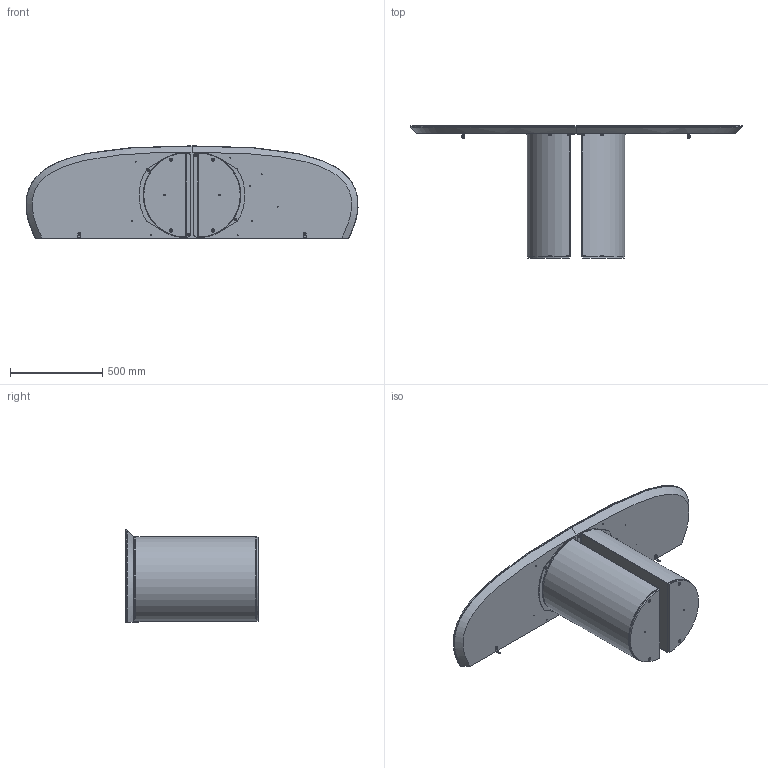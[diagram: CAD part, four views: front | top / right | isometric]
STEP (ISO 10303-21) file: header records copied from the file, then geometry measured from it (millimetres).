
FILE_DESCRIPTION (( 'STEP AP203' ), '1' );
FILE_NAME ('DR80G_Dora Console_180x50x72h_Glass Shaped.STEP', '2024-08-06T09:40:24', ( '' ), ( '' ), 'SwSTEP 2.0', 'SolidWorks 2022', '' );
FILE_SCHEMA (( 'CONFIG_CONTROL_DESIGN' ));
Length unit declared in the file: millimetre
Products named in the file (12): PLA000000ZOC-01-PLAI ZOCCOLO DELLA BASE; M8xXXmm_hex_M8X20mm; ROC000001PSx-00-CONSOLEE ROTOLO PIASTRA FISSAGGIO_STAFFA CORTA; DOR000V01PST-00-DORA PIASTRA TELAIO; M6xXXmm_M6x20mm; TRU000XXX-01-Sottopiano per ceramica_180x50; DR80G_Dora Console_180x50x72h_Glass Shaped; M6xXXmm_HEX_M6x20mm HEX; PLA000000BAS-00-PLAI BASE GREZZA; CXXXX-00-piani CRISTALLO Sasso per console_180X50; CXXXX-00-piani CRISTALLO Sasso per console_180x50; Assieme Basamento PLAI_Basamento per consolle
Assembly tree (18 placements, depth 3):
  DR80G_Dora Console_180x50x72h_Glass Shaped
    CXXXX-00-piani CRISTALLO Sasso per console_180X50
      CXXXX-00-piani CRISTALLO Sasso per console_180x50
      TRU000XXX-01-Sottopiano per ceramica_180x50
    Assieme Basamento PLAI_Basamento per consolle  x2
      PLA000000BAS-00-PLAI BASE GREZZA
      DOR000V01PST-00-DORA PIASTRA TELAIO
      PLA000000ZOC-01-PLAI ZOCCOLO DELLA BASE
      M8xXXmm_hex_M8X20mm
    M6xXXmm_M6x20mm  x2
    ROC000001PSx-00-CONSOLEE ROTOLO PIASTRA FISSAGGIO_STAFFA CORTA  x2
    M6xXXmm_HEX_M6x20mm HEX  x4
Bounding box: 1799.15 x 719.01 x 500 mm (x, y, z)
Volume: 38056749.9 mm3; surface area: 7642458.3 mm2
Topology: 26 solids, 26 shells, 652 faces, 1457 edges, 827 vertices
Faces by surface type: plane 282, cylinder 202, cone 138, torus 24, bspline 6
Entity records: 11256 total; most frequent: CARTESIAN_POINT 2868, DIRECTION 1572, ORIENTED_EDGE 1328, EDGE_CURVE 664, AXIS2_PLACEMENT_3D 619, VERTEX_POINT 405, EDGE_LOOP 359, VECTOR 334
